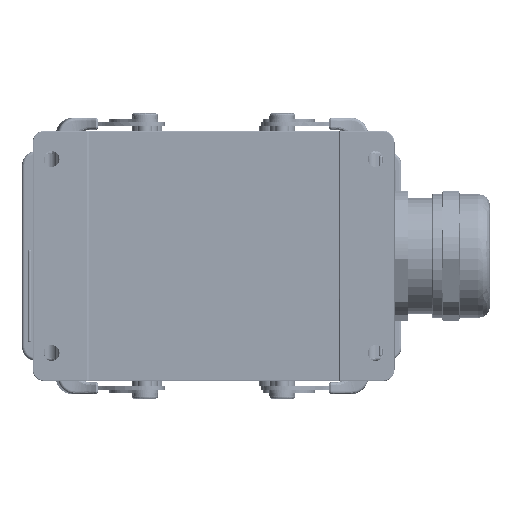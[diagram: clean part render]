
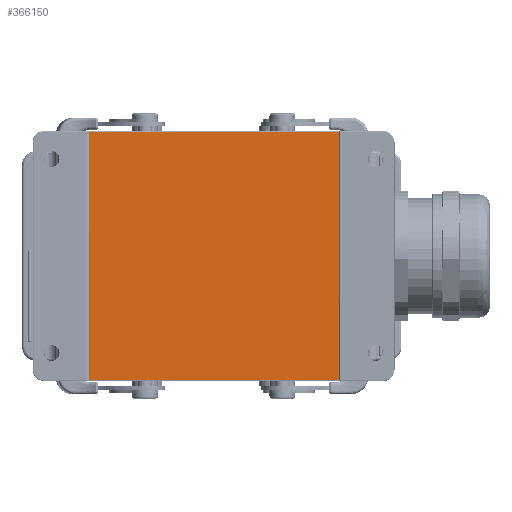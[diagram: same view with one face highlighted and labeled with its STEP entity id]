
A CAD part, front view. The second image highlights one B-rep face of the part: STEP entity #366150.
In plain terms, the highlighted planar face has unit normal (0, -1, 0) as drawn and (0, 0, -1) by its records, which use the part's own axes.
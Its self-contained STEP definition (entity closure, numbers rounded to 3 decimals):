
#7011 = CARTESIAN_POINT ( 'NONE',  ( 105.7, 1.412, -86.1 ) ) ;
#9811 = CARTESIAN_POINT ( 'NONE',  ( 105.7, 87.266, -86.1 ) ) ;
#15655 = ORIENTED_EDGE ( 'NONE', *, *, #300141, .F. ) ;
#21336 = VERTEX_POINT ( 'NONE', #375756 ) ;
#31470 = CARTESIAN_POINT ( 'NONE',  ( 62.5, 44.339, -86.1 ) ) ;
#43870 = DIRECTION ( 'NONE',  ( 0., 1., 0. ) ) ;
#89416 = CARTESIAN_POINT ( 'NONE',  ( 62.5, 1.412, -86.1 ) ) ;
#110461 = ORIENTED_EDGE ( 'NONE', *, *, #404077, .F. ) ;
#126581 = LINE ( 'NONE', #359696, #293419 ) ;
#151309 = EDGE_CURVE ( 'NONE', #507278, #165317, #313790, .T. ) ;
#158482 = FACE_OUTER_BOUND ( 'NONE', #491368, .T. ) ;
#165317 = VERTEX_POINT ( 'NONE', #7011 ) ;
#166792 = EDGE_CURVE ( 'NONE', #21336, #507278, #389042, .T. ) ;
#175178 = PLANE ( 'NONE',  #499128 ) ;
#179374 = ORIENTED_EDGE ( 'NONE', *, *, #166792, .F. ) ;
#210762 = VECTOR ( 'NONE', #577846, 1000. ) ;
#225213 = DIRECTION ( 'NONE',  ( 1., 0., 0. ) ) ;
#252855 = DIRECTION ( 'NONE',  ( 1., 0., 0. ) ) ;
#293419 = VECTOR ( 'NONE', #43870, 1000. ) ;
#300141 = EDGE_CURVE ( 'NONE', #165317, #428141, #126581, .T. ) ;
#305504 = CARTESIAN_POINT ( 'NONE',  ( 62.5, 87.266, -86.1 ) ) ;
#313790 = LINE ( 'NONE', #89416, #486173 ) ;
#341114 = VECTOR ( 'NONE', #571253, 1000. ) ;
#359696 = CARTESIAN_POINT ( 'NONE',  ( 105.7, 44.339, -86.1 ) ) ;
#366150 = ADVANCED_FACE ( 'NONE', ( #158482 ), #175178, .F. ) ;
#375756 = CARTESIAN_POINT ( 'NONE',  ( 19.3, 87.266, -86.1 ) ) ;
#389042 = LINE ( 'NONE', #391979, #210762 ) ;
#391979 = CARTESIAN_POINT ( 'NONE',  ( 19.3, 44.339, -86.1 ) ) ;
#404077 = EDGE_CURVE ( 'NONE', #428141, #21336, #532786, .T. ) ;
#428141 = VERTEX_POINT ( 'NONE', #9811 ) ;
#442726 = CARTESIAN_POINT ( 'NONE',  ( 19.3, 1.412, -86.1 ) ) ;
#468701 = ORIENTED_EDGE ( 'NONE', *, *, #151309, .F. ) ;
#471472 = DIRECTION ( 'NONE',  ( 0., 0., 1. ) ) ;
#486173 = VECTOR ( 'NONE', #225213, 1000. ) ;
#491368 = EDGE_LOOP ( 'NONE', ( #110461, #15655, #468701, #179374 ) ) ;
#499128 = AXIS2_PLACEMENT_3D ( 'NONE', #31470, #471472, #252855 ) ;
#507278 = VERTEX_POINT ( 'NONE', #442726 ) ;
#532786 = LINE ( 'NONE', #305504, #341114 ) ;
#571253 = DIRECTION ( 'NONE',  ( -1., 0., 0. ) ) ;
#577846 = DIRECTION ( 'NONE',  ( 0., -1., 0. ) ) ;
